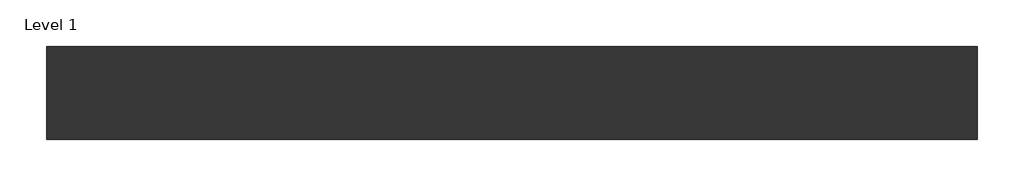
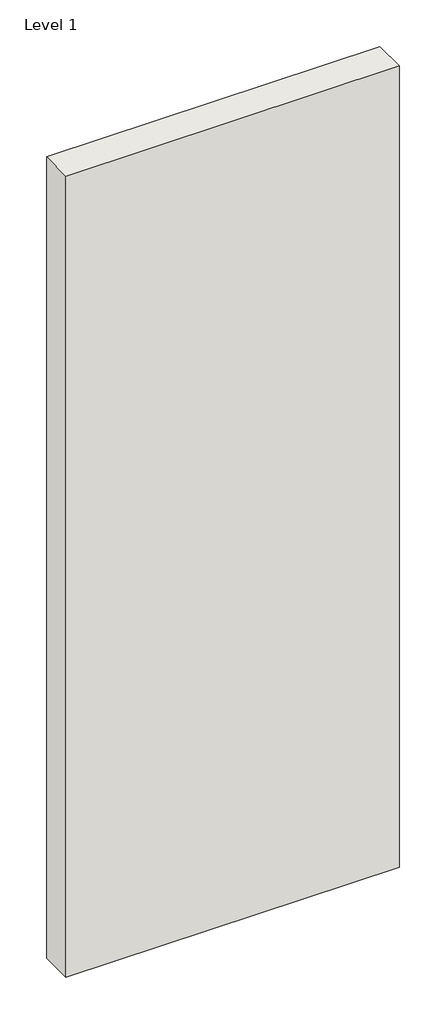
# One storey: 1 wall.
"""IFC4 building model written with IfcOpenShell, lengths in millimetres."""

from ifc_helpers import new_model, si_unit, origin, origin_with_axes, place, context, project, spatial, polyline, outline, extrude, element, save

model = new_model("IFC4")

# Units and contexts
model_context = context("Model", 3, world=origin())
ifc_project = project(units=[si_unit("LENGTHUNIT", "METRE", prefix="MILLI")], contexts=[model_context])

# Site, building, storey
site = spatial("IfcSite", under=ifc_project)
building = spatial("IfcBuilding", under=site)
storey = spatial("IfcBuildingStorey", under=building, Name="Level 1", Elevation=0.0)

# Wall
placement = place(None, origin())
element("IfcWall", 1, ObjectType="Tabique Simple – Placo®  120/400 PPH 15 + 90 (LM) + PPH 15 con LM Isover - 48 dBA", at=placement, inside=storey, context=model_context, shape_type="SweptSolid", body=[
    extrude(outline(polyline([(-27386.4711674, -90480.7381776), (-28586.4711674, -90480.7381776), (-28586.4711674, -90360.7381776), (-27386.4711674, -90360.7381776), (-27386.4711674, -90480.7381776)])), origin_with_axes(), (0.0, 0.0, 1.0), 3050.0),
])

save(model, "model.ifc")
